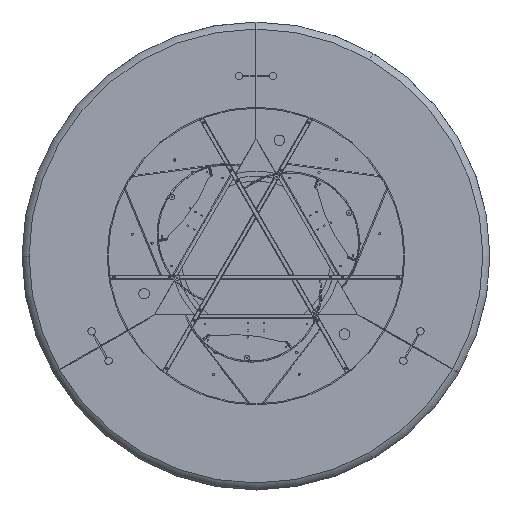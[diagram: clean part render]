
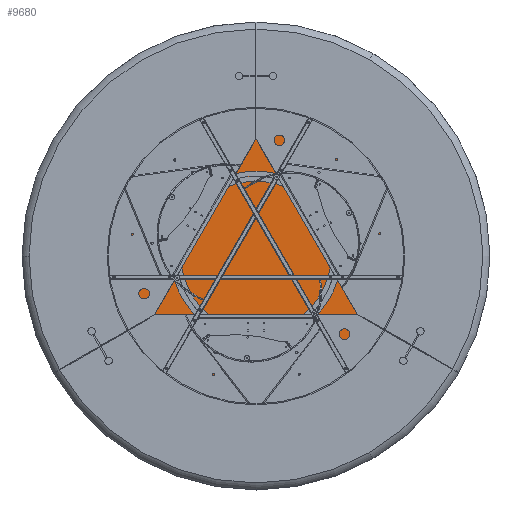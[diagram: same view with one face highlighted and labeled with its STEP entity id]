
A CAD part, front view. The second image highlights one B-rep face of the part: STEP entity #9680.
In plain terms, the highlighted planar face has unit normal (0, -1, 0).
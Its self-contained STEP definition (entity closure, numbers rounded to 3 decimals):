
#908 = DIRECTION ( 'NONE',  ( 0., 0., 1. ) ) ;
#2565 = EDGE_LOOP ( 'NONE', ( #26863, #15336 ) ) ;
#3095 = CARTESIAN_POINT ( 'NONE',  ( 0., 0., 594.5 ) ) ;
#5281 = CARTESIAN_POINT ( 'NONE',  ( 0., 0., -594.5 ) ) ;
#5555 = CARTESIAN_POINT ( 'NONE',  ( 0., 0., 0. ) ) ;
#6457 = VERTEX_POINT ( 'NONE', #5281 ) ;
#6548 = CIRCLE ( 'NONE', #14769, 594.5 ) ;
#7976 = CIRCLE ( 'NONE', #15215, 594.5 ) ;
#9680 = ADVANCED_FACE ( 'NONE', ( #12189 ), #18976, .F. ) ;
#9776 = DIRECTION ( 'NONE',  ( 0., 1., 0. ) ) ;
#12189 = FACE_OUTER_BOUND ( 'NONE', #2565, .T. ) ;
#13173 = EDGE_CURVE ( 'NONE', #6457, #15299, #7976, .T. ) ;
#13562 = EDGE_CURVE ( 'NONE', #15299, #6457, #6548, .T. ) ;
#14769 = AXIS2_PLACEMENT_3D ( 'NONE', #27114, #24862, #28786 ) ;
#15215 = AXIS2_PLACEMENT_3D ( 'NONE', #16743, #26384, #908 ) ;
#15299 = VERTEX_POINT ( 'NONE', #3095 ) ;
#15336 = ORIENTED_EDGE ( 'NONE', *, *, #13173, .T. ) ;
#16743 = CARTESIAN_POINT ( 'NONE',  ( 0., 0., 0. ) ) ;
#18976 = PLANE ( 'NONE',  #24569 ) ;
#23494 = DIRECTION ( 'NONE',  ( 0., 0., 1. ) ) ;
#24569 = AXIS2_PLACEMENT_3D ( 'NONE', #5555, #9776, #23494 ) ;
#24862 = DIRECTION ( 'NONE',  ( 0., -1., 0. ) ) ;
#26384 = DIRECTION ( 'NONE',  ( 0., -1., 0. ) ) ;
#26863 = ORIENTED_EDGE ( 'NONE', *, *, #13562, .T. ) ;
#27114 = CARTESIAN_POINT ( 'NONE',  ( 0., 0., 0. ) ) ;
#28786 = DIRECTION ( 'NONE',  ( 0., 0., 1. ) ) ;
